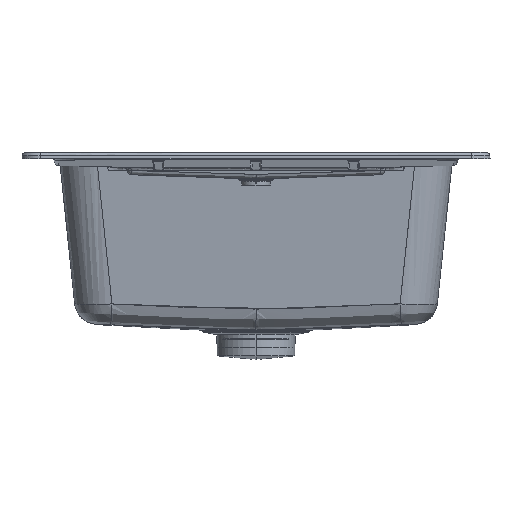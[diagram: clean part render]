
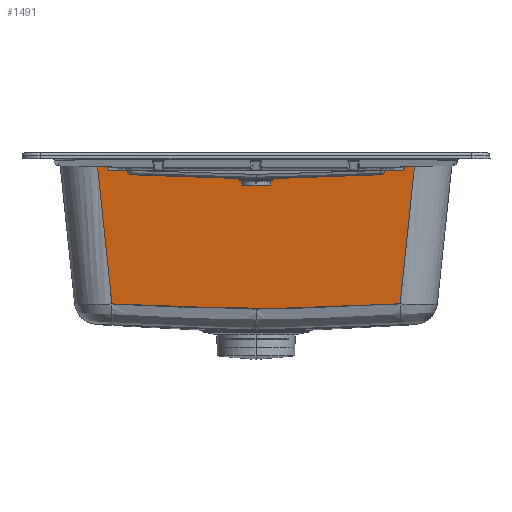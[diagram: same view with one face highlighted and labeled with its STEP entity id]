
A CAD part, left-side view. The second image highlights one B-rep face of the part: STEP entity #1491.
In plain terms, the highlighted planar face has unit normal (0.995, 0, 0.104).
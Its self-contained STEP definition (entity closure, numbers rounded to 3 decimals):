
#169=PLANE('',#10461);
#1491=ADVANCED_FACE('',(#1984),#169,.T.);
#1984=FACE_OUTER_BOUND('',#2564,.T.);
#2564=EDGE_LOOP('',(#4585));
#4585=ORIENTED_EDGE('',*,*,#6313,.T.);
#6313=EDGE_CURVE('',#9556,#9556,#8041,.T.);
#8041=B_SPLINE_CURVE_WITH_KNOTS('',3,(#62214,#62215,#62216,#62217,#62218,
#62219,#62220,#62221,#62222,#62223,#62224,#62225,#62226,#62227,#62228,#62229,
#62230,#62231,#62232,#62233,#62234,#62235,#62236,#62237,#62238,#62239,#62240,
#62241,#62242,#62243,#62244,#62245,#62246,#62247,#62248,#62249,#62250,#62251,
#62252,#62253,#62254,#62255,#62256,#62257,#62258,#62259,#62260,#62261,#62262,
#62263,#62264,#62265,#62266,#62267,#62268,#62269,#62270,#62271,#62272,#62273,
#62274,#62275,#62276,#62277,#62278,#62279,#62280,#62281,#62282,#62283,#62284,
#62285,#62286,#62287,#62288,#62289,#62290,#62291,#62292,#62293,#62294,#62295,
#62296,#62297,#62298,#62299,#62300,#62301,#62302,#62303,#62304,#62305,#62306,
#62307,#62308,#62309,#62310,#62311,#62312,#62313,#62314,#62315,#62316,#62317,
#62318,#62319,#62320,#62321,#62322,#62323),.UNSPECIFIED.,.T.,.F.,(4,3,3,
3,3,3,1,1,1,1,1,1,1,1,1,1,1,1,1,1,1,1,1,1,1,1,1,1,1,1,1,1,1,1,1,1,1,1,3,
1,1,1,1,1,1,1,1,1,1,1,1,1,1,1,1,1,1,1,1,1,1,1,1,1,1,1,1,1,1,1,1,3,3,3,3,
3,3,3,3,4),(0.,1.,2.,3.,4.,5.,5.03,5.061,5.091,
5.121,5.152,5.182,5.212,5.242,
5.273,5.303,5.333,5.364,5.394,
5.424,5.455,5.485,5.515,5.545,
5.576,5.606,5.636,5.667,5.697,
5.727,5.758,5.788,5.818,5.848,
5.879,5.909,5.939,5.97,6.,6.03,
6.061,6.091,6.121,6.152,6.182,
6.212,6.242,6.273,6.303,6.333,
6.364,6.394,6.424,6.455,6.485,
6.515,6.545,6.576,6.606,6.636,
6.667,6.697,6.727,6.758,6.788,
6.818,6.848,6.879,6.909,6.939,
6.97,7.,8.,9.,10.,11.,12.,13.,14.,15.),.UNSPECIFIED.);
#9556=VERTEX_POINT('',#62213);
#10461=AXIS2_PLACEMENT_3D('',#62212,#10518,$);
#10518=DIRECTION('',(0.995,0.,0.105));
#62212=CARTESIAN_POINT('',(75.09,-240.821,-7.857));
#62213=CARTESIAN_POINT('',(76.322,-221.951,-19.582));
#62214=CARTESIAN_POINT('',(76.322,-221.951,-19.582));
#62215=CARTESIAN_POINT('',(76.184,-222.183,-18.264));
#62216=CARTESIAN_POINT('',(76.045,-222.416,-16.945));
#62217=CARTESIAN_POINT('',(75.907,-222.648,-15.627));
#62218=CARTESIAN_POINT('',(75.769,-222.879,-14.318));
#62219=CARTESIAN_POINT('',(75.632,-223.11,-13.009));
#62220=CARTESIAN_POINT('',(75.494,-223.34,-11.7));
#62221=CARTESIAN_POINT('',(75.472,-223.377,-11.493));
#62222=CARTESIAN_POINT('',(75.45,-223.414,-11.286));
#62223=CARTESIAN_POINT('',(75.429,-223.45,-11.079));
#62224=CARTESIAN_POINT('',(75.425,-226.976,-11.048));
#62225=CARTESIAN_POINT('',(75.422,-230.503,-11.017));
#62226=CARTESIAN_POINT('',(75.419,-234.029,-10.986));
#62227=CARTESIAN_POINT('',(80.707,-228.742,-61.295));
#62228=CARTESIAN_POINT('',(85.994,-223.454,-111.603));
#62229=CARTESIAN_POINT('',(91.282,-218.167,-161.912));
#62230=CARTESIAN_POINT('',(91.297,-215.318,-162.051));
#62231=CARTESIAN_POINT('',(91.325,-209.841,-162.318));
#62232=CARTESIAN_POINT('',(91.363,-202.274,-162.683));
#62233=CARTESIAN_POINT('',(91.398,-195.387,-163.013));
#62234=CARTESIAN_POINT('',(91.429,-189.027,-163.314));
#62235=CARTESIAN_POINT('',(91.459,-182.998,-163.598));
#62236=CARTESIAN_POINT('',(91.487,-177.283,-163.864));
#62237=CARTESIAN_POINT('',(91.512,-172.031,-164.106));
#62238=CARTESIAN_POINT('',(91.536,-167.209,-164.325));
#62239=CARTESIAN_POINT('',(91.557,-162.576,-164.534));
#62240=CARTESIAN_POINT('',(91.579,-157.92,-164.741));
#62241=CARTESIAN_POINT('',(91.601,-153.193,-164.948));
#62242=CARTESIAN_POINT('',(91.623,-148.444,-165.153));
#62243=CARTESIAN_POINT('',(91.643,-143.786,-165.35));
#62244=CARTESIAN_POINT('',(91.663,-139.299,-165.536));
#62245=CARTESIAN_POINT('',(91.681,-134.903,-165.714));
#62246=CARTESIAN_POINT('',(91.7,-130.467,-165.889));
#62247=CARTESIAN_POINT('',(91.718,-125.921,-166.063));
#62248=CARTESIAN_POINT('',(91.736,-121.375,-166.231));
#62249=CARTESIAN_POINT('',(91.752,-117.,-166.385));
#62250=CARTESIAN_POINT('',(91.767,-112.848,-166.526));
#62251=CARTESIAN_POINT('',(91.78,-108.821,-166.655));
#62252=CARTESIAN_POINT('',(91.793,-104.868,-166.776));
#62253=CARTESIAN_POINT('',(91.805,-100.991,-166.886));
#62254=CARTESIAN_POINT('',(91.815,-97.19,-166.986));
#62255=CARTESIAN_POINT('',(91.825,-93.445,-167.076));
#62256=CARTESIAN_POINT('',(91.833,-89.739,-167.157));
#62257=CARTESIAN_POINT('',(91.841,-86.062,-167.228));
#62258=CARTESIAN_POINT('',(91.847,-82.405,-167.289));
#62259=CARTESIAN_POINT('',(91.852,-78.763,-167.339));
#62260=CARTESIAN_POINT('',(91.856,-75.126,-167.379));
#62261=CARTESIAN_POINT('',(91.859,-71.482,-167.407));
#62262=CARTESIAN_POINT('',(91.861,-67.843,-167.424));
#62263=CARTESIAN_POINT('',(91.862,-65.432,-167.428));
#62264=CARTESIAN_POINT('',(91.862,-64.229,-167.428));
#62265=CARTESIAN_POINT('',(91.862,-63.027,-167.428));
#62266=CARTESIAN_POINT('',(91.861,-60.616,-167.424));
#62267=CARTESIAN_POINT('',(91.859,-56.978,-167.407));
#62268=CARTESIAN_POINT('',(91.856,-53.335,-167.379));
#62269=CARTESIAN_POINT('',(91.852,-49.699,-167.339));
#62270=CARTESIAN_POINT('',(91.847,-46.058,-167.289));
#62271=CARTESIAN_POINT('',(91.841,-42.402,-167.228));
#62272=CARTESIAN_POINT('',(91.833,-38.726,-167.157));
#62273=CARTESIAN_POINT('',(91.825,-35.021,-167.077));
#62274=CARTESIAN_POINT('',(91.815,-31.277,-166.986));
#62275=CARTESIAN_POINT('',(91.805,-27.476,-166.886));
#62276=CARTESIAN_POINT('',(91.793,-23.601,-166.776));
#62277=CARTESIAN_POINT('',(91.781,-19.649,-166.656));
#62278=CARTESIAN_POINT('',(91.767,-15.623,-166.526));
#62279=CARTESIAN_POINT('',(91.752,-11.473,-166.386));
#62280=CARTESIAN_POINT('',(91.736,-7.101,-166.231));
#62281=CARTESIAN_POINT('',(91.718,-2.556,-166.063));
#62282=CARTESIAN_POINT('',(91.7,1.992,-165.889));
#62283=CARTESIAN_POINT('',(91.682,6.432,-165.714));
#62284=CARTESIAN_POINT('',(91.663,10.831,-165.536));
#62285=CARTESIAN_POINT('',(91.643,15.319,-165.35));
#62286=CARTESIAN_POINT('',(91.623,19.978,-165.153));
#62287=CARTESIAN_POINT('',(91.601,24.731,-164.948));
#62288=CARTESIAN_POINT('',(91.579,29.464,-164.741));
#62289=CARTESIAN_POINT('',(91.557,34.125,-164.534));
#62290=CARTESIAN_POINT('',(91.536,38.762,-164.325));
#62291=CARTESIAN_POINT('',(91.512,43.583,-164.105));
#62292=CARTESIAN_POINT('',(91.487,48.832,-163.864));
#62293=CARTESIAN_POINT('',(91.459,54.545,-163.598));
#62294=CARTESIAN_POINT('',(91.429,60.576,-163.314));
#62295=CARTESIAN_POINT('',(91.398,66.936,-163.012));
#62296=CARTESIAN_POINT('',(91.363,73.819,-162.683));
#62297=CARTESIAN_POINT('',(91.325,81.383,-162.318));
#62298=CARTESIAN_POINT('',(91.297,86.86,-162.051));
#62299=CARTESIAN_POINT('',(91.282,89.708,-161.912));
#62300=CARTESIAN_POINT('',(85.994,94.996,-111.603));
#62301=CARTESIAN_POINT('',(80.707,100.283,-61.295));
#62302=CARTESIAN_POINT('',(75.419,105.571,-10.986));
#62303=CARTESIAN_POINT('',(75.422,102.044,-11.017));
#62304=CARTESIAN_POINT('',(75.425,98.518,-11.048));
#62305=CARTESIAN_POINT('',(75.429,94.991,-11.079));
#62306=CARTESIAN_POINT('',(75.45,94.955,-11.286));
#62307=CARTESIAN_POINT('',(75.472,94.918,-11.493));
#62308=CARTESIAN_POINT('',(75.494,94.882,-11.7));
#62309=CARTESIAN_POINT('',(75.632,94.651,-13.009));
#62310=CARTESIAN_POINT('',(75.769,94.42,-14.318));
#62311=CARTESIAN_POINT('',(75.907,94.189,-15.627));
#62312=CARTESIAN_POINT('',(76.045,93.957,-16.945));
#62313=CARTESIAN_POINT('',(76.184,93.725,-18.264));
#62314=CARTESIAN_POINT('',(76.322,93.492,-19.582));
#62315=CARTESIAN_POINT('',(76.322,86.865,-19.582));
#62316=CARTESIAN_POINT('',(76.322,80.238,-19.582));
#62317=CARTESIAN_POINT('',(76.322,73.611,-19.582));
#62318=CARTESIAN_POINT('',(76.322,-18.283,-19.582));
#62319=CARTESIAN_POINT('',(76.322,-110.176,-19.582));
#62320=CARTESIAN_POINT('',(76.322,-202.069,-19.582));
#62321=CARTESIAN_POINT('',(76.322,-208.696,-19.582));
#62322=CARTESIAN_POINT('',(76.322,-215.324,-19.582));
#62323=CARTESIAN_POINT('',(76.322,-221.951,-19.582));
